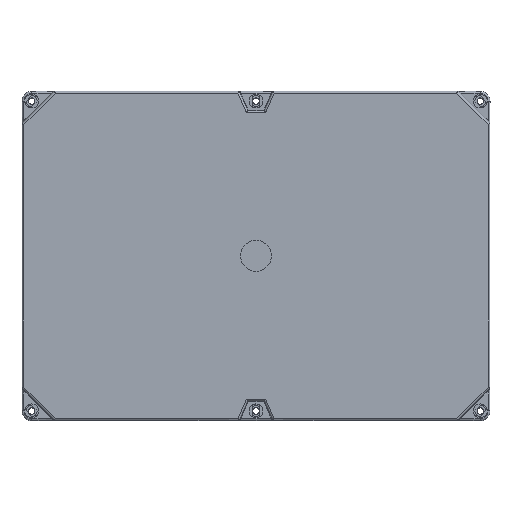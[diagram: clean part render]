
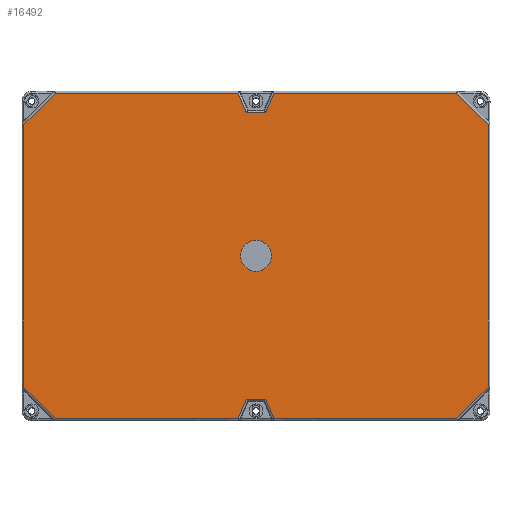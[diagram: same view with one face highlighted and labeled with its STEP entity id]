
A CAD part, top view. The second image highlights one B-rep face of the part: STEP entity #16492.
In plain terms, the highlighted planar face has unit normal (0, 0, 1) as drawn and (0, -1, 0) by its records, which use the part's own axes.
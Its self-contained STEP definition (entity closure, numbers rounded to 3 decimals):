
#103 = ORIENTED_EDGE ( 'NONE', *, *, #9619, .T. ) ;
#309 = LINE ( 'NONE', #30259, #344 ) ;
#344 = VECTOR ( 'NONE', #13764, 1000. ) ;
#558 = EDGE_CURVE ( 'NONE', #29319, #3707, #9252, .T. ) ;
#912 = CARTESIAN_POINT ( 'NONE',  ( 194.474, -92., 125.5 ) ) ;
#977 = CARTESIAN_POINT ( 'NONE',  ( 25.658, -92., -125.5 ) ) ;
#990 = CARTESIAN_POINT ( 'NONE',  ( 7.5, -92., 125.5 ) ) ;
#1588 = DIRECTION ( 'NONE',  ( -1., 0., 0. ) ) ;
#1651 = ORIENTED_EDGE ( 'NONE', *, *, #18804, .T. ) ;
#1666 = ORIENTED_EDGE ( 'NONE', *, *, #19446, .T. ) ;
#2149 = VECTOR ( 'NONE', #18776, 1000. ) ;
#2367 = CARTESIAN_POINT ( 'NONE',  ( 180.5, -92., -12. ) ) ;
#2724 = CARTESIAN_POINT ( 'NONE',  ( 1.5, -92., 119.5 ) ) ;
#2894 = ORIENTED_EDGE ( 'NONE', *, *, #558, .T. ) ;
#3115 = CARTESIAN_POINT ( 'NONE',  ( 335.342, -92., 125.5 ) ) ;
#3176 = PLANE ( 'NONE',  #21507 ) ;
#3217 = EDGE_CURVE ( 'NONE', #31139, #28243, #18534, .T. ) ;
#3253 = EDGE_CURVE ( 'NONE', #21408, #12296, #17695, .T. ) ;
#3289 = CARTESIAN_POINT ( 'NONE',  ( 7.5, -92., 125.5 ) ) ;
#3707 = VERTEX_POINT ( 'NONE', #23602 ) ;
#3887 = LINE ( 'NONE', #2724, #3925 ) ;
#3925 = VECTOR ( 'NONE', #8850, 1000. ) ;
#4375 = ORIENTED_EDGE ( 'NONE', *, *, #33407, .T. ) ;
#4413 = CARTESIAN_POINT ( 'NONE',  ( 180.5, -92., 12. ) ) ;
#4669 = ORIENTED_EDGE ( 'NONE', *, *, #22951, .T. ) ;
#4949 = DIRECTION ( 'NONE',  ( 0.404, 0., 0.915 ) ) ;
#5033 = CARTESIAN_POINT ( 'NONE',  ( 231.103, -92., 20.806 ) ) ;
#5532 = VECTOR ( 'NONE', #26365, 1000. ) ;
#6482 = CARTESIAN_POINT ( 'NONE',  ( 13.579, -92., 113.421 ) ) ;
#6727 = CARTESIAN_POINT ( 'NONE',  ( 166.526, -92., 125.5 ) ) ;
#7426 = ORIENTED_EDGE ( 'NONE', *, *, #34750, .T. ) ;
#7547 = AXIS2_PLACEMENT_3D ( 'NONE', #25073, #31824, #15370 ) ;
#8257 = ORIENTED_EDGE ( 'NONE', *, *, #32296, .T. ) ;
#8625 = CARTESIAN_POINT ( 'NONE',  ( 142.813, -92., 179.225 ) ) ;
#8683 = CARTESIAN_POINT ( 'NONE',  ( 187.873, -92., -110.546 ) ) ;
#8741 = VECTOR ( 'NONE', #8834, 1000. ) ;
#8834 = DIRECTION ( 'NONE',  ( -0.404, 0., 0.915 ) ) ;
#8850 = DIRECTION ( 'NONE',  ( 0., 0., -1. ) ) ;
#8862 = EDGE_CURVE ( 'NONE', #28243, #14108, #30905, .T. ) ;
#8879 = VECTOR ( 'NONE', #1588, 1000. ) ;
#8895 = DIRECTION ( 'NONE',  ( 0., 0., -1. ) ) ;
#8905 = EDGE_CURVE ( 'NONE', #3707, #31706, #28542, .T. ) ;
#9115 = LINE ( 'NONE', #990, #8879 ) ;
#9252 = LINE ( 'NONE', #36824, #2149 ) ;
#9425 = DIRECTION ( 'NONE',  ( 0.707, 0., -0.707 ) ) ;
#9472 = CARTESIAN_POINT ( 'NONE',  ( -105.921, -92., 6.079 ) ) ;
#9482 = VECTOR ( 'NONE', #30319, 1000. ) ;
#9619 = EDGE_CURVE ( 'NONE', #33093, #12819, #23272, .T. ) ;
#9631 = LINE ( 'NONE', #8625, #8741 ) ;
#10542 = CIRCLE ( 'NONE', #16591, 12. ) ;
#10670 = DIRECTION ( 'NONE',  ( -1., 0., 0. ) ) ;
#10808 = VECTOR ( 'NONE', #25101, 1000. ) ;
#10886 = LINE ( 'NONE', #25328, #10808 ) ;
#12191 = EDGE_CURVE ( 'NONE', #33481, #29319, #9115, .T. ) ;
#12296 = VERTEX_POINT ( 'NONE', #2367 ) ;
#12792 = VECTOR ( 'NONE', #9425, 1000. ) ;
#12819 = VERTEX_POINT ( 'NONE', #32054 ) ;
#12885 = CARTESIAN_POINT ( 'NONE',  ( 7.5, -92., 119.5 ) ) ;
#13082 = LINE ( 'NONE', #9472, #12792 ) ;
#13591 = CARTESIAN_POINT ( 'NONE',  ( 173.127, -92., 110.546 ) ) ;
#13603 = VECTOR ( 'NONE', #28073, 1000. ) ;
#13764 = DIRECTION ( 'NONE',  ( 1., 0., 0. ) ) ;
#13958 = LINE ( 'NONE', #28038, #13603 ) ;
#14108 = VERTEX_POINT ( 'NONE', #21991 ) ;
#14574 = EDGE_CURVE ( 'NONE', #14108, #30619, #25171, .T. ) ;
#15370 = DIRECTION ( 'NONE',  ( 0., 0., -1. ) ) ;
#15722 = CARTESIAN_POINT ( 'NONE',  ( 335.342, -92., -125.5 ) ) ;
#15811 = ORIENTED_EDGE ( 'NONE', *, *, #30909, .F. ) ;
#16492 = ADVANCED_FACE ( 'NONE', ( #26877, #26946 ), #3176, .T. ) ;
#16591 = AXIS2_PLACEMENT_3D ( 'NONE', #25602, #25532, #25524 ) ;
#16668 = EDGE_LOOP ( 'NONE', ( #15811, #29070 ) ) ;
#17275 = CARTESIAN_POINT ( 'NONE',  ( 1.5, -92., -101.342 ) ) ;
#17695 = CIRCLE ( 'NONE', #7547, 12. ) ;
#17995 = LINE ( 'NONE', #5033, #21163 ) ;
#18215 = ORIENTED_EDGE ( 'NONE', *, *, #14574, .T. ) ;
#18534 = LINE ( 'NONE', #32202, #9482 ) ;
#18776 = DIRECTION ( 'NONE',  ( -0.404, 0., -0.915 ) ) ;
#18804 = EDGE_CURVE ( 'NONE', #33436, #33093, #20221, .T. ) ;
#19152 = DIRECTION ( 'NONE',  ( 0., 0., 1. ) ) ;
#19446 = EDGE_CURVE ( 'NONE', #12819, #33240, #3887, .T. ) ;
#20221 = LINE ( 'NONE', #3289, #20682 ) ;
#20270 = ORIENTED_EDGE ( 'NONE', *, *, #8862, .T. ) ;
#20682 = VECTOR ( 'NONE', #10670, 1000. ) ;
#20906 = ORIENTED_EDGE ( 'NONE', *, *, #8905, .T. ) ;
#21163 = VECTOR ( 'NONE', #4949, 1000. ) ;
#21254 = CARTESIAN_POINT ( 'NONE',  ( 173.127, -92., -110.546 ) ) ;
#21408 = VERTEX_POINT ( 'NONE', #4413 ) ;
#21413 = EDGE_CURVE ( 'NONE', #26612, #33950, #309, .T. ) ;
#21507 = AXIS2_PLACEMENT_3D ( 'NONE', #12885, #25041, #8895 ) ;
#21991 = CARTESIAN_POINT ( 'NONE',  ( 359.5, -92., -101.342 ) ) ;
#22539 = CARTESIAN_POINT ( 'NONE',  ( 194.474, -92., -125.5 ) ) ;
#22665 = EDGE_CURVE ( 'NONE', #27960, #26384, #13958, .T. ) ;
#22951 = EDGE_CURVE ( 'NONE', #26384, #31139, #10886, .T. ) ;
#23232 = ORIENTED_EDGE ( 'NONE', *, *, #12191, .T. ) ;
#23272 = LINE ( 'NONE', #6482, #5532 ) ;
#23602 = CARTESIAN_POINT ( 'NONE',  ( 187.873, -92., 110.546 ) ) ;
#23735 = CARTESIAN_POINT ( 'NONE',  ( 25.658, -92., 125.5 ) ) ;
#24971 = EDGE_CURVE ( 'NONE', #30619, #33481, #36270, .T. ) ;
#25041 = DIRECTION ( 'NONE',  ( 0., -1., 0. ) ) ;
#25073 = CARTESIAN_POINT ( 'NONE',  ( 180.5, -92., 0. ) ) ;
#25101 = DIRECTION ( 'NONE',  ( 0.404, 0., -0.915 ) ) ;
#25171 = LINE ( 'NONE', #30235, #25484 ) ;
#25328 = CARTESIAN_POINT ( 'NONE',  ( 73.481, -92., 148.623 ) ) ;
#25484 = VECTOR ( 'NONE', #19152, 1000. ) ;
#25524 = DIRECTION ( 'NONE',  ( 0., 0., -1. ) ) ;
#25532 = DIRECTION ( 'NONE',  ( 0., -1., 0. ) ) ;
#25602 = CARTESIAN_POINT ( 'NONE',  ( 180.5, -92., 0. ) ) ;
#26278 = VECTOR ( 'NONE', #32022, 1000. ) ;
#26365 = DIRECTION ( 'NONE',  ( -0.707, 0., -0.707 ) ) ;
#26384 = VERTEX_POINT ( 'NONE', #8683 ) ;
#26612 = VERTEX_POINT ( 'NONE', #977 ) ;
#26758 = CARTESIAN_POINT ( 'NONE',  ( 7.5, -92., 110.546 ) ) ;
#26877 = FACE_BOUND ( 'NONE', #16668, .T. ) ;
#26920 = DIRECTION ( 'NONE',  ( -1., 0., 0. ) ) ;
#26946 = FACE_OUTER_BOUND ( 'NONE', #33686, .T. ) ;
#27778 = VECTOR ( 'NONE', #26920, 1000. ) ;
#27960 = VERTEX_POINT ( 'NONE', #21254 ) ;
#28038 = CARTESIAN_POINT ( 'NONE',  ( 7.5, -92., -110.546 ) ) ;
#28073 = DIRECTION ( 'NONE',  ( 1., 0., 0. ) ) ;
#28243 = VERTEX_POINT ( 'NONE', #15722 ) ;
#28542 = LINE ( 'NONE', #26758, #27778 ) ;
#28658 = CARTESIAN_POINT ( 'NONE',  ( 166.526, -92., -125.5 ) ) ;
#28688 = ORIENTED_EDGE ( 'NONE', *, *, #3217, .T. ) ;
#29039 = CARTESIAN_POINT ( 'NONE',  ( 359.5, -92., 101.342 ) ) ;
#29070 = ORIENTED_EDGE ( 'NONE', *, *, #3253, .F. ) ;
#29252 = ORIENTED_EDGE ( 'NONE', *, *, #22665, .T. ) ;
#29319 = VERTEX_POINT ( 'NONE', #912 ) ;
#29343 = CARTESIAN_POINT ( 'NONE',  ( 293.921, -92., -166.921 ) ) ;
#29472 = DIRECTION ( 'NONE',  ( 0.707, 0., 0.707 ) ) ;
#29702 = VECTOR ( 'NONE', #29472, 1000. ) ;
#30235 = CARTESIAN_POINT ( 'NONE',  ( 359.5, -92., 119.5 ) ) ;
#30259 = CARTESIAN_POINT ( 'NONE',  ( 7.5, -92., -125.5 ) ) ;
#30319 = DIRECTION ( 'NONE',  ( 1., 0., 0. ) ) ;
#30619 = VERTEX_POINT ( 'NONE', #29039 ) ;
#30905 = LINE ( 'NONE', #29343, #29702 ) ;
#30909 = EDGE_CURVE ( 'NONE', #12296, #21408, #10542, .T. ) ;
#31139 = VERTEX_POINT ( 'NONE', #22539 ) ;
#31706 = VERTEX_POINT ( 'NONE', #13591 ) ;
#31824 = DIRECTION ( 'NONE',  ( 0., -1., 0. ) ) ;
#32022 = DIRECTION ( 'NONE',  ( -0.707, 0., 0.707 ) ) ;
#32054 = CARTESIAN_POINT ( 'NONE',  ( 1.5, -92., 101.342 ) ) ;
#32202 = CARTESIAN_POINT ( 'NONE',  ( 7.5, -92., -125.5 ) ) ;
#32296 = EDGE_CURVE ( 'NONE', #33950, #27960, #17995, .T. ) ;
#32742 = CARTESIAN_POINT ( 'NONE',  ( 174.421, -92., 286.421 ) ) ;
#33093 = VERTEX_POINT ( 'NONE', #23735 ) ;
#33240 = VERTEX_POINT ( 'NONE', #17275 ) ;
#33407 = EDGE_CURVE ( 'NONE', #31706, #33436, #9631, .T. ) ;
#33436 = VERTEX_POINT ( 'NONE', #6727 ) ;
#33481 = VERTEX_POINT ( 'NONE', #3115 ) ;
#33686 = EDGE_LOOP ( 'NONE', ( #4375, #1651, #103, #1666, #7426, #35001, #8257, #29252, #4669, #28688, #20270, #18215, #35237, #23232, #2894, #20906 ) ) ;
#33950 = VERTEX_POINT ( 'NONE', #28658 ) ;
#34750 = EDGE_CURVE ( 'NONE', #33240, #26612, #13082, .T. ) ;
#35001 = ORIENTED_EDGE ( 'NONE', *, *, #21413, .T. ) ;
#35237 = ORIENTED_EDGE ( 'NONE', *, *, #24971, .T. ) ;
#36270 = LINE ( 'NONE', #32742, #26278 ) ;
#36824 = CARTESIAN_POINT ( 'NONE',  ( 161.771, -92., 51.408 ) ) ;
